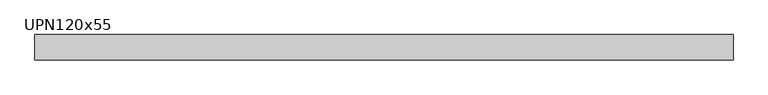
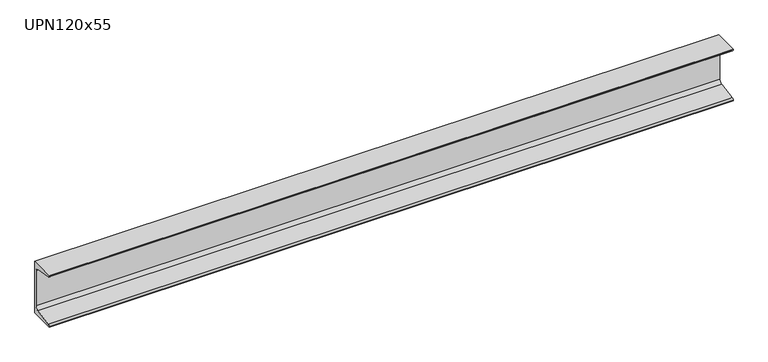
"""IFC4 building model written with IfcOpenShell, lengths in millimetres: beam geometry, M_MC Shapes : UPN120x55."""

from ifc_helpers import new_model, si_unit, point, frame, frame_2d, origin, place, context, project, spatial, polyline, circle_curve, trimmed, segment, composite_curve, outline, extrude, source, transform, mapped, element, save


def upn120x55_8ca40f5d(model_context):
    return source(origin(), model_context, "Body", "SweptSolid", [
        extrude(outline(composite_curve([segment(polyline([(10.9, 60.0), (10.9, -60.0), (-44.1, -60.0), (-44.1, -59.0253247)]), True, "CONTINUOUS"), segment(trimmed(circle_curve(frame_2d((-40.15, -59.0253247)), 3.95), [point((-44.1, -59.0253247))], [point((-40.7993773, -55.1290689))], False, "CARTESIAN"), True, "CONTINUOUS"), segment(polyline([(-40.7993773, -55.1290689), (-0.2512455, -48.3710335)]), True, "CONTINUOUS"), segment(trimmed(circle_curve(frame_2d((-1.55, -40.5785219)), 7.9), [point((-0.2512455, -48.3710335))], [point((6.35, -40.5785219))], True, "CARTESIAN"), True, "CONTINUOUS"), segment(polyline([(6.35, -40.5785219), (6.35, 40.5785219)]), True, "CONTINUOUS"), segment(trimmed(circle_curve(frame_2d((-1.55, 40.5785219)), 7.9), [point((6.35, 40.5785219))], [point((-0.2512455, 48.3710335))], True, "CARTESIAN"), True, "CONTINUOUS"), segment(polyline([(-0.2512455, 48.3710335), (-40.7993773, 55.1290689)]), True, "CONTINUOUS"), segment(trimmed(circle_curve(frame_2d((-40.15, 59.0253247)), 3.95), [point((-40.7993773, 55.1290689))], [point((-44.1, 59.0253247))], False, "CARTESIAN"), True, "CONTINUOUS"), segment(polyline([(-44.1, 59.0253247), (-44.1, 60.0), (10.9, 60.0)]), True, "CONTINUOUS")], self_intersect=False)), frame((-775.0, 0.0, 0.0), z_axis=(1.0, 0.0, 0.0), x_axis=(0.0, 1.0, 0.0)), (0.0, 0.0, 1.0), 1508.9),
    ])


if __name__ == "__main__":
    model = new_model("IFC4")
    model_context = context("Model", 3, world=origin())
    ifc_project = project(units=[si_unit("LENGTHUNIT", "METRE", prefix="MILLI")], contexts=[model_context])
    site = spatial("IfcSite", under=ifc_project)
    building = spatial("IfcBuilding", under=site)
    placement = place(None, origin())
    upn120x55_shape = upn120x55_8ca40f5d(model_context)
    element("IfcBeam", 1, ObjectType="M_MC Shapes : UPN120x55", at=placement, inside=building, context=model_context, shape_type="MappedRepresentation", body=[
        mapped(upn120x55_shape, transform((0.0, 0.0, 0.0), x_axis=(1.0, 0.0, 0.0), y_axis=(0.0, 1.0, 0.0), z_axis=(0.0, 0.0, 1.0))),
    ])
    save(model, "model.ifc")
